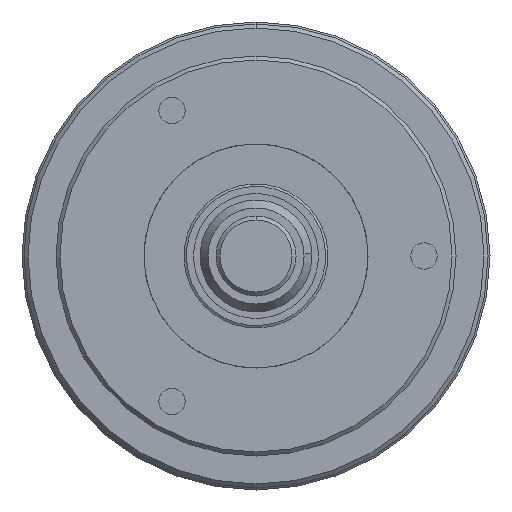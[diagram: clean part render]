
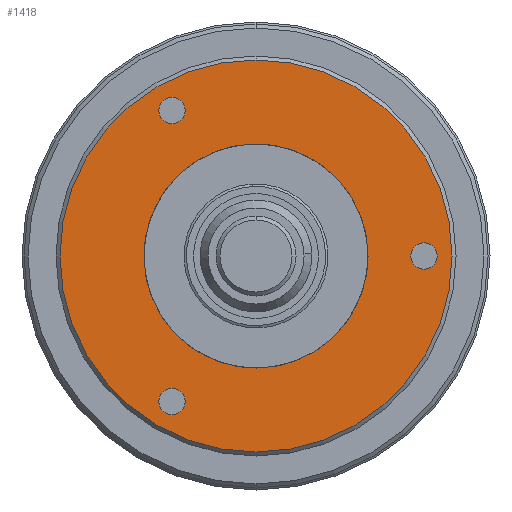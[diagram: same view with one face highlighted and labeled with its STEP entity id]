
A CAD part, front view. The second image highlights one B-rep face of the part: STEP entity #1418.
In plain terms, the highlighted planar face has unit normal (0, -1, 0).
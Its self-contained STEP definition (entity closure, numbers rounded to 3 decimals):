
#44 = EDGE_CURVE ( 'NONE', #2763, #4811, #2808, .T. ) ;
#80 = PLANE ( 'NONE',  #1148 ) ;
#101 = DIRECTION ( 'NONE',  ( 0., -1., 0. ) ) ;
#134 = CARTESIAN_POINT ( 'NONE',  ( 0., 0., 0. ) ) ;
#207 = AXIS2_PLACEMENT_3D ( 'NONE', #3692, #1492, #574 ) ;
#323 = CARTESIAN_POINT ( 'NONE',  ( 21., 0., 0. ) ) ;
#386 = CIRCLE ( 'NONE', #2272, 14. ) ;
#441 = EDGE_CURVE ( 'NONE', #988, #2647, #3051, .T. ) ;
#451 = FACE_OUTER_BOUND ( 'NONE', #2337, .T. ) ;
#530 = DIRECTION ( 'NONE',  ( 0., 0., -1. ) ) ;
#574 = DIRECTION ( 'NONE',  ( 0., 0., -1. ) ) ;
#589 = DIRECTION ( 'NONE',  ( 0., -1., 0. ) ) ;
#633 = DIRECTION ( 'NONE',  ( 0., -1., 0. ) ) ;
#697 = EDGE_CURVE ( 'NONE', #2647, #988, #1147, .T. ) ;
#722 = DIRECTION ( 'NONE',  ( 0., 0., -1. ) ) ;
#742 = CARTESIAN_POINT ( 'NONE',  ( 0., 0., 24.5 ) ) ;
#751 = CIRCLE ( 'NONE', #3960, 1.65 ) ;
#809 = CARTESIAN_POINT ( 'NONE',  ( -10.5, 0., 18.187 ) ) ;
#833 = CIRCLE ( 'NONE', #2039, 24.5 ) ;
#901 = CARTESIAN_POINT ( 'NONE',  ( -10.5, 0., -18.187 ) ) ;
#988 = VERTEX_POINT ( 'NONE', #2451 ) ;
#1004 = CARTESIAN_POINT ( 'NONE',  ( -10.5, 0., -19.837 ) ) ;
#1009 = VERTEX_POINT ( 'NONE', #4041 ) ;
#1025 = CARTESIAN_POINT ( 'NONE',  ( -10.5, 0., -16.537 ) ) ;
#1078 = ORIENTED_EDGE ( 'NONE', *, *, #441, .F. ) ;
#1085 = CIRCLE ( 'NONE', #4987, 1.65 ) ;
#1147 = CIRCLE ( 'NONE', #3525, 1.65 ) ;
#1148 = AXIS2_PLACEMENT_3D ( 'NONE', #2024, #4712, #2395 ) ;
#1188 = DIRECTION ( 'NONE',  ( 0., 0., -1. ) ) ;
#1283 = DIRECTION ( 'NONE',  ( 0., 0., -1. ) ) ;
#1361 = FACE_BOUND ( 'NONE', #4436, .T. ) ;
#1418 = ADVANCED_FACE ( 'NONE', ( #451, #4439, #2370, #1503, #1361 ), #80, .T. ) ;
#1442 = VERTEX_POINT ( 'NONE', #3167 ) ;
#1444 = CARTESIAN_POINT ( 'NONE',  ( -10.5, 0., 19.837 ) ) ;
#1492 = DIRECTION ( 'NONE',  ( 0., -1., 0. ) ) ;
#1503 = FACE_BOUND ( 'NONE', #2722, .T. ) ;
#1585 = AXIS2_PLACEMENT_3D ( 'NONE', #4277, #633, #3314 ) ;
#1611 = EDGE_CURVE ( 'NONE', #1009, #1442, #3565, .T. ) ;
#1631 = VERTEX_POINT ( 'NONE', #1025 ) ;
#1693 = ORIENTED_EDGE ( 'NONE', *, *, #4946, .F. ) ;
#1780 = DIRECTION ( 'NONE',  ( 0., -1., 0. ) ) ;
#1859 = CARTESIAN_POINT ( 'NONE',  ( 0., 0., -24.5 ) ) ;
#2024 = CARTESIAN_POINT ( 'NONE',  ( 0., 0., 0. ) ) ;
#2039 = AXIS2_PLACEMENT_3D ( 'NONE', #2893, #589, #3268 ) ;
#2258 = DIRECTION ( 'NONE',  ( 0., -1., 0. ) ) ;
#2272 = AXIS2_PLACEMENT_3D ( 'NONE', #134, #2832, #530 ) ;
#2337 = EDGE_LOOP ( 'NONE', ( #4591, #4886 ) ) ;
#2353 = VERTEX_POINT ( 'NONE', #2464 ) ;
#2370 = FACE_BOUND ( 'NONE', #3392, .T. ) ;
#2395 = DIRECTION ( 'NONE',  ( 0., 0., -1. ) ) ;
#2401 = CARTESIAN_POINT ( 'NONE',  ( -10.5, 0., -18.187 ) ) ;
#2427 = CARTESIAN_POINT ( 'NONE',  ( 21., 0., 1.65 ) ) ;
#2451 = CARTESIAN_POINT ( 'NONE',  ( -10.5, 0., 16.537 ) ) ;
#2453 = AXIS2_PLACEMENT_3D ( 'NONE', #323, #3018, #722 ) ;
#2464 = CARTESIAN_POINT ( 'NONE',  ( 21., 0., -1.65 ) ) ;
#2466 = EDGE_LOOP ( 'NONE', ( #4690, #1693 ) ) ;
#2587 = EDGE_CURVE ( 'NONE', #4811, #2763, #833, .T. ) ;
#2647 = VERTEX_POINT ( 'NONE', #1444 ) ;
#2722 = EDGE_LOOP ( 'NONE', ( #3936, #4327 ) ) ;
#2763 = VERTEX_POINT ( 'NONE', #1859 ) ;
#2765 = EDGE_CURVE ( 'NONE', #3174, #2353, #3218, .T. ) ;
#2801 = DIRECTION ( 'NONE',  ( 0., 0., -1. ) ) ;
#2808 = CIRCLE ( 'NONE', #207, 24.5 ) ;
#2832 = DIRECTION ( 'NONE',  ( 0., -1., 0. ) ) ;
#2893 = CARTESIAN_POINT ( 'NONE',  ( 0., 0., 0. ) ) ;
#3018 = DIRECTION ( 'NONE',  ( 0., -1., 0. ) ) ;
#3051 = CIRCLE ( 'NONE', #4917, 1.65 ) ;
#3167 = CARTESIAN_POINT ( 'NONE',  ( 0., 0., 14. ) ) ;
#3174 = VERTEX_POINT ( 'NONE', #2427 ) ;
#3218 = CIRCLE ( 'NONE', #2453, 1.65 ) ;
#3268 = DIRECTION ( 'NONE',  ( 0., 0., -1. ) ) ;
#3314 = DIRECTION ( 'NONE',  ( 0., 0., -1. ) ) ;
#3387 = ORIENTED_EDGE ( 'NONE', *, *, #3730, .F. ) ;
#3392 = EDGE_LOOP ( 'NONE', ( #1078, #3739 ) ) ;
#3484 = DIRECTION ( 'NONE',  ( 0., -1., 0. ) ) ;
#3525 = AXIS2_PLACEMENT_3D ( 'NONE', #809, #3484, #1188 ) ;
#3565 = CIRCLE ( 'NONE', #1585, 14. ) ;
#3584 = DIRECTION ( 'NONE',  ( 0., -1., 0. ) ) ;
#3692 = CARTESIAN_POINT ( 'NONE',  ( 0., 0., 0. ) ) ;
#3730 = EDGE_CURVE ( 'NONE', #1442, #1009, #386, .T. ) ;
#3739 = ORIENTED_EDGE ( 'NONE', *, *, #697, .F. ) ;
#3827 = VERTEX_POINT ( 'NONE', #1004 ) ;
#3895 = AXIS2_PLACEMENT_3D ( 'NONE', #4590, #2258, #4968 ) ;
#3936 = ORIENTED_EDGE ( 'NONE', *, *, #4770, .F. ) ;
#3960 = AXIS2_PLACEMENT_3D ( 'NONE', #2401, #101, #2801 ) ;
#4041 = CARTESIAN_POINT ( 'NONE',  ( 0., 0., -14. ) ) ;
#4077 = CARTESIAN_POINT ( 'NONE',  ( -10.5, 0., 18.187 ) ) ;
#4084 = ORIENTED_EDGE ( 'NONE', *, *, #1611, .F. ) ;
#4239 = EDGE_CURVE ( 'NONE', #3827, #1631, #751, .T. ) ;
#4277 = CARTESIAN_POINT ( 'NONE',  ( 0., 0., 0. ) ) ;
#4327 = ORIENTED_EDGE ( 'NONE', *, *, #2765, .F. ) ;
#4436 = EDGE_LOOP ( 'NONE', ( #4084, #3387 ) ) ;
#4439 = FACE_BOUND ( 'NONE', #2466, .T. ) ;
#4459 = CIRCLE ( 'NONE', #3895, 1.65 ) ;
#4461 = DIRECTION ( 'NONE',  ( 0., 0., -1. ) ) ;
#4590 = CARTESIAN_POINT ( 'NONE',  ( 21., 0., 0. ) ) ;
#4591 = ORIENTED_EDGE ( 'NONE', *, *, #2587, .T. ) ;
#4690 = ORIENTED_EDGE ( 'NONE', *, *, #4239, .F. ) ;
#4712 = DIRECTION ( 'NONE',  ( 0., -1., 0. ) ) ;
#4770 = EDGE_CURVE ( 'NONE', #2353, #3174, #4459, .T. ) ;
#4811 = VERTEX_POINT ( 'NONE', #742 ) ;
#4886 = ORIENTED_EDGE ( 'NONE', *, *, #44, .T. ) ;
#4917 = AXIS2_PLACEMENT_3D ( 'NONE', #4077, #1780, #4461 ) ;
#4946 = EDGE_CURVE ( 'NONE', #1631, #3827, #1085, .T. ) ;
#4968 = DIRECTION ( 'NONE',  ( 0., 0., -1. ) ) ;
#4987 = AXIS2_PLACEMENT_3D ( 'NONE', #901, #3584, #1283 ) ;
